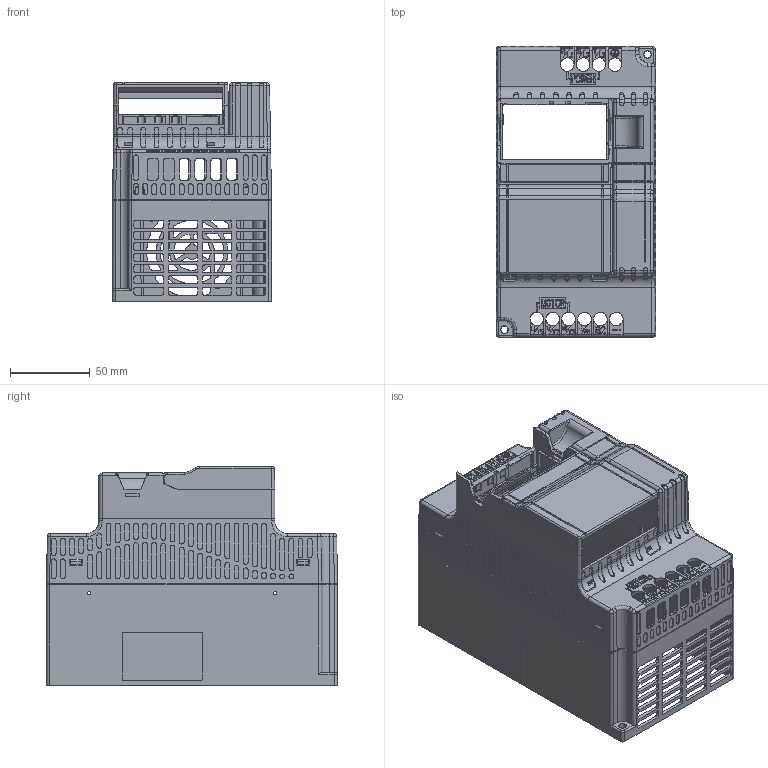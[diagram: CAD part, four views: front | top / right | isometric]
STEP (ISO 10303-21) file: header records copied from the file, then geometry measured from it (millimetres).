
FILE_DESCRIPTION (( 'STEP AP203' ), '1' );
FILE_NAME ('z2000-3_7_5_5kw (S12).STEP', '2019-05-24T13:40:26', ( '' ), ( '' ), 'SwSTEP 2.0', 'SolidWorks 2012', '' );
FILE_SCHEMA (( 'CONFIG_CONTROL_DESIGN' ));
Length unit declared in the file: millimetre
Products named in the file (1): z2000-3_7_5_5kw (S12)
Bounding box: 100.03 x 183.03 x 137.6 mm (x, y, z)
Surface area: 212778 mm2 (no closed solid volume)
Topology: 0 solids, 8 shells, 4049 faces, 11562 edges, 7745 vertices
Faces by surface type: plane 2721, cylinder 1166, bspline 107, cone 52, torus 3
Entity records: 177789 total; most frequent: CARTESIAN_POINT 80141, ORIENTED_EDGE 22960, DIRECTION 15509, EDGE_CURVE 11544, VERTEX_POINT 7739, LINE 7203, VECTOR 7203, EDGE_LOOP 4461
